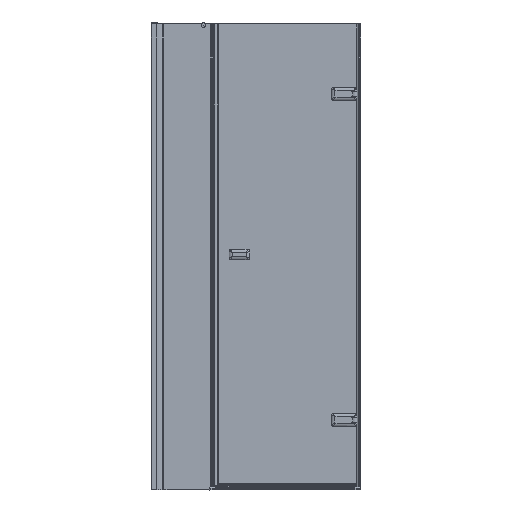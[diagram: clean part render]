
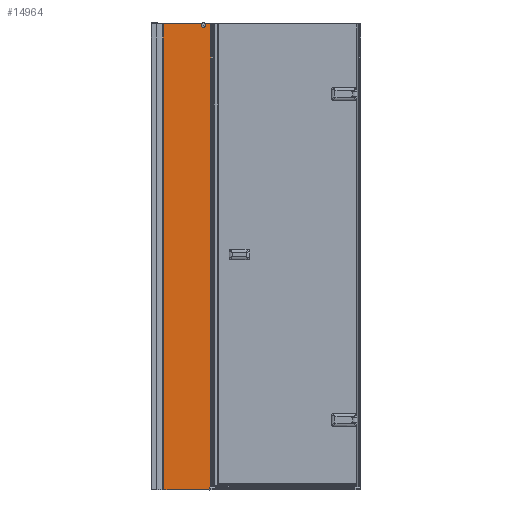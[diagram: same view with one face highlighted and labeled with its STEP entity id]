
A CAD part, front view. The second image highlights one B-rep face of the part: STEP entity #14964.
In plain terms, the highlighted planar face has unit normal (0, -1, 0).
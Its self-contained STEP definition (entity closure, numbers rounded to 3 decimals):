
#365=PLANE($,#15890);
#987=FACE_OUTER_BOUND($,#1818,.T.);
#1818=EDGE_LOOP($,(#10037,#10038,#10039,#10040,#10041,#10042,#10043,#10044,
#10045,#10046,#10047,#10048));
#2660=CIRCLE($,#15875,10.);
#3147=LINE($,#23127,#4658);
#3148=LINE($,#23129,#4659);
#3149=LINE($,#23131,#4660);
#3150=LINE($,#23133,#4661);
#3151=LINE($,#23135,#4662);
#3152=LINE($,#23137,#4663);
#3153=LINE($,#23139,#4664);
#3154=LINE($,#23141,#4665);
#3155=LINE($,#23143,#4666);
#3156=LINE($,#23145,#4667);
#3157=LINE($,#23146,#4668);
#4658=VECTOR($,#17514,164.716);
#4659=VECTOR($,#17515,2000.);
#4660=VECTOR($,#17516,199.);
#4661=VECTOR($,#17517,11.);
#4662=VECTOR($,#17518,2.);
#4663=VECTOR($,#17519,1998.);
#4664=VECTOR($,#17520,2.457);
#4665=VECTOR($,#17521,1998.);
#4666=VECTOR($,#17522,2.543);
#4667=VECTOR($,#17523,1998.);
#4668=VECTOR($,#17524,22.423);
#6201=VERTEX_POINT($,#23091);
#6204=VERTEX_POINT($,#23096);
#6209=VERTEX_POINT($,#23126);
#6210=VERTEX_POINT($,#23128);
#6211=VERTEX_POINT($,#23130);
#6212=VERTEX_POINT($,#23132);
#6213=VERTEX_POINT($,#23134);
#6214=VERTEX_POINT($,#23136);
#6215=VERTEX_POINT($,#23138);
#6216=VERTEX_POINT($,#23140);
#6217=VERTEX_POINT($,#23142);
#6218=VERTEX_POINT($,#23144);
#7626=EDGE_CURVE($,#6204,#6201,#2660,.T.);
#7639=EDGE_CURVE($,#6209,#6204,#3147,.T.);
#7640=EDGE_CURVE($,#6210,#6209,#3148,.T.);
#7641=EDGE_CURVE($,#6210,#6211,#3149,.T.);
#7642=EDGE_CURVE($,#6211,#6212,#3150,.T.);
#7643=EDGE_CURVE($,#6213,#6212,#3151,.T.);
#7644=EDGE_CURVE($,#6214,#6213,#3152,.T.);
#7645=EDGE_CURVE($,#6215,#6214,#3153,.T.);
#7646=EDGE_CURVE($,#6216,#6215,#3154,.T.);
#7647=EDGE_CURVE($,#6217,#6216,#3155,.T.);
#7648=EDGE_CURVE($,#6218,#6217,#3156,.T.);
#7649=EDGE_CURVE($,#6201,#6218,#3157,.T.);
#10037=ORIENTED_EDGE($,*,*,#7626,.F.);
#10038=ORIENTED_EDGE($,*,*,#7639,.F.);
#10039=ORIENTED_EDGE($,*,*,#7640,.F.);
#10040=ORIENTED_EDGE($,*,*,#7641,.T.);
#10041=ORIENTED_EDGE($,*,*,#7642,.T.);
#10042=ORIENTED_EDGE($,*,*,#7643,.F.);
#10043=ORIENTED_EDGE($,*,*,#7644,.F.);
#10044=ORIENTED_EDGE($,*,*,#7645,.F.);
#10045=ORIENTED_EDGE($,*,*,#7646,.F.);
#10046=ORIENTED_EDGE($,*,*,#7647,.F.);
#10047=ORIENTED_EDGE($,*,*,#7648,.F.);
#10048=ORIENTED_EDGE($,*,*,#7649,.F.);
#14964=ADVANCED_FACE($,(#987),#365,.F.);
#15875=AXIS2_PLACEMENT_3D($,#23098,#17474,#17475);
#15890=AXIS2_PLACEMENT_3D($,#23125,#17512,#17513);
#17474=DIRECTION('center_axis',(0.,-1.,0.));
#17475=DIRECTION('ref_axis',(1.,0.,0.));
#17512=DIRECTION('center_axis',(0.,1.,0.));
#17513=DIRECTION('ref_axis',(1.,0.,0.));
#17514=DIRECTION($,(1.,0.,0.));
#17515=DIRECTION($,(0.,0.,1.));
#17516=DIRECTION($,(1.,0.,0.));
#17517=DIRECTION($,(1.,0.,0.));
#17518=DIRECTION($,(0.,0.,-1.));
#17519=DIRECTION($,(0.,0.,-1.));
#17520=DIRECTION($,(1.,0.,0.));
#17521=DIRECTION($,(0.,0.,1.));
#17522=DIRECTION($,(1.,0.,0.));
#17523=DIRECTION($,(0.,0.,-1.));
#17524=DIRECTION($,(1.,0.,0.));
#23091=CARTESIAN_POINT('',(1665.263,-4.044,1485.944));
#23096=CARTESIAN_POINT('',(1647.402,-4.044,1485.944));
#23098=CARTESIAN_POINT('Origin',(1656.332,-4.044,1481.444));
#23125=CARTESIAN_POINT('Origin',(1439.686,-4.044,1485.944));
#23126=CARTESIAN_POINT('',(1482.686,-4.044,1485.944));
#23127=CARTESIAN_POINT($,(1439.686,-4.044,1485.944));
#23128=CARTESIAN_POINT('',(1482.686,-4.044,-514.056));
#23129=CARTESIAN_POINT($,(1482.686,-4.044,1485.944));
#23130=CARTESIAN_POINT('',(1681.686,-4.044,-514.056));
#23131=CARTESIAN_POINT($,(1439.686,-4.044,-514.056));
#23132=CARTESIAN_POINT('',(1692.686,-4.044,-514.056));
#23133=CARTESIAN_POINT($,(1439.686,-4.044,-514.056));
#23134=CARTESIAN_POINT('',(1692.686,-4.044,-512.056));
#23135=CARTESIAN_POINT($,(1692.686,-4.044,1485.944));
#23136=CARTESIAN_POINT('',(1692.686,-4.044,1485.944));
#23137=CARTESIAN_POINT($,(1692.686,-4.044,1485.944));
#23138=CARTESIAN_POINT('',(1690.229,-4.044,1485.944));
#23139=CARTESIAN_POINT($,(1439.686,-4.044,1485.944));
#23140=CARTESIAN_POINT('',(1690.229,-4.044,-512.056));
#23141=CARTESIAN_POINT($,(1690.229,-4.044,486.944));
#23142=CARTESIAN_POINT('',(1687.686,-4.044,-512.056));
#23143=CARTESIAN_POINT($,(1564.068,-4.044,-512.056));
#23144=CARTESIAN_POINT('',(1687.686,-4.044,1485.944));
#23145=CARTESIAN_POINT($,(1687.686,-4.044,486.944));
#23146=CARTESIAN_POINT($,(1439.686,-4.044,1485.944));
